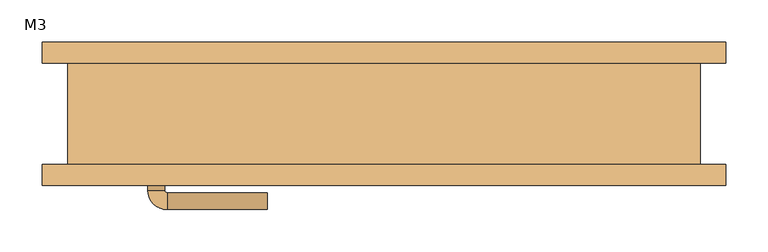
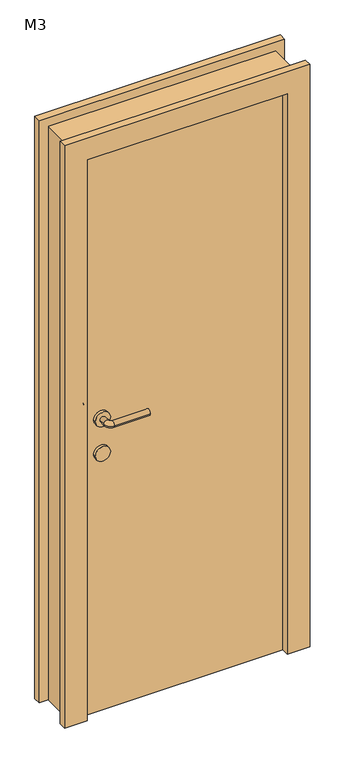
"""IFC4 building model written with IfcOpenShell, lengths in millimetres: door geometry, 单嵌板木门 1 : M3."""

import ifcopenshell
import ifcopenshell.guid

model = None  # the IFC model being written
_history = None  # IfcOwnerHistory: only IFC2X3 demands one
_inside = {}  # id of a spatial element -> (the spatial element, [elements in it])
_under = {}  # id of a project, library or spatial element -> (it, [spatial elements below it])
_declared = {}  # id of a project -> (the project, [libraries it declares])
_typed = {}  # id of a type object -> (the type object, [elements of that type])
_made_of = {}  # id of a material, layer set ... -> (it, [elements and type objects made of it])


def new_model(schema):
    """Start an empty IFC model of exactly this schema.

    Asked for "IFC4X3", IfcOpenShell would pick the latest addendum, in which some entities
    have other attributes; the version numbers below select the first issue.
    IFC2X3 requires an IfcOwnerHistory on every rooted entity: one is made here for all.
    """
    global model, _history
    if schema == "IFC4X3":
        model = ifcopenshell.file(schema_version=(4, 3, 0, 0))
    else:
        model = ifcopenshell.file(schema=schema)
    _inside.clear()
    _under.clear()
    _declared.clear()
    _typed.clear()
    _made_of.clear()
    _history = None
    if model.schema == "IFC2X3":
        org = make("IfcOrganization", Name="unknown")
        user = make(
            "IfcPersonAndOrganization",
            ThePerson=make("IfcPerson", FamilyName="unknown"),
            TheOrganization=org,
        )
        app = make(
            "IfcApplication",
            ApplicationDeveloper=org,
            Version="unknown",
            ApplicationFullName="unknown",
            ApplicationIdentifier="unknown",
        )
        _history = make(
            "IfcOwnerHistory",
            OwningUser=user,
            OwningApplication=app,
            ChangeAction="ADDED",
            CreationDate=0,
        )
    return model


def make(cls, **values):
    """One entity of the class cls with the attributes given. An attribute that is None is left unset."""
    return model.create_entity(
        cls, **{name: value for name, value in values.items() if value is not None}
    )


def rooted(cls, **values):
    """An entity with a GlobalId (a new one), such as an element, a storey or a relation."""
    return make(cls, GlobalId=ifcopenshell.guid.new(), OwnerHistory=_history, **values)


def si_unit(unit_type, name, prefix=None):
    """IfcSIUnit, for example si_unit("LENGTHUNIT", "METRE", prefix="MILLI")."""
    return make("IfcSIUnit", UnitType=unit_type, Prefix=prefix, Name=name)


def assignment(units):
    """IfcUnitAssignment: the units of a project."""
    return None if units is None else make("IfcUnitAssignment", Units=units)


def point(xyz):
    """IfcCartesianPoint."""
    return None if xyz is None else make("IfcCartesianPoint", Coordinates=xyz)


def direction(xyz):
    """IfcDirection."""
    return None if xyz is None else make("IfcDirection", DirectionRatios=xyz)


def frame(location, z_axis=None, x_axis=None):
    """IfcAxis2Placement3D, a coordinate frame: its origin and axes. An axis left out is left unset."""
    return make(
        "IfcAxis2Placement3D",
        Location=point(location),
        Axis=direction(z_axis),
        RefDirection=direction(x_axis),
    )


def frame_2d(location, x_axis=None):
    """IfcAxis2Placement2D, a coordinate frame in the plane: its origin and x axis."""
    return make(
        "IfcAxis2Placement2D", Location=point(location), RefDirection=direction(x_axis)
    )


def origin():
    """The frame at (0, 0, 0) with its axes left unset."""
    return frame((0.0, 0.0, 0.0))


def origin_with_axes():
    """The frame at (0, 0, 0) with the z axis (0, 0, 1) and the x axis (1, 0, 0) written out."""
    return frame((0.0, 0.0, 0.0), z_axis=(0.0, 0.0, 1.0), x_axis=(1.0, 0.0, 0.0))


def place(relative_to, where):
    """IfcLocalPlacement: puts the frame where relative to a parent placement (None: the world)."""
    return make(
        "IfcLocalPlacement", PlacementRelTo=relative_to, RelativePlacement=where
    )


def context(
    kind, dimensions, precision=None, world=None, true_north=None, identifier=None
):
    """IfcGeometricRepresentationContext, for example the 3D "Model" context."""
    return make(
        "IfcGeometricRepresentationContext",
        ContextIdentifier=identifier,
        ContextType=kind,
        CoordinateSpaceDimension=dimensions,
        Precision=precision,
        WorldCoordinateSystem=world,
        TrueNorth=true_north,
    )


def project(units=None, contexts=None):
    """IfcProject with its units and contexts."""
    return rooted(
        "IfcProject",
        Name="project",
        RepresentationContexts=contexts,
        UnitsInContext=assignment(units),
    )


def spatial(cls, under=None, at=None, **own):
    """A site, building, storey or space (cls), placed at a placement, below another one or the project."""
    s = rooted(cls, ObjectPlacement=at, **own)
    if under is not None:
        _under.setdefault(under.id(), (under, []))[1].append(s)
    return s


def polyline(points):
    """IfcPolyline through the points."""
    return make("IfcPolyline", Points=[point(p) for p in points])


def circle_curve(where, radius):
    """IfcCircle in the frame where."""
    return make("IfcCircle", Position=where, Radius=radius)


def ellipse_curve(where, semi_axis1, semi_axis2):
    """IfcEllipse in the frame where."""
    return make(
        "IfcEllipse", Position=where, SemiAxis1=semi_axis1, SemiAxis2=semi_axis2
    )


def trimmed(basis, trim1, trim2, sense, master):
    """IfcTrimmedCurve: the piece of a basis curve between two trims."""
    return make(
        "IfcTrimmedCurve",
        BasisCurve=basis,
        Trim1=trim1,
        Trim2=trim2,
        SenseAgreement=sense,
        MasterRepresentation=master,
    )


def segment(curve, same_sense, transition):
    """IfcCompositeCurveSegment."""
    return make(
        "IfcCompositeCurveSegment",
        Transition=transition,
        SameSense=same_sense,
        ParentCurve=curve,
    )


def composite_curve(segments, self_intersect=None):
    """IfcCompositeCurve: segments joined end to end."""
    return make("IfcCompositeCurve", Segments=segments, SelfIntersect=self_intersect)


def outline(outer, holes=None, kind="AREA"):
    """IfcArbitraryClosedProfileDef: a profile drawn as a closed curve; with holes, ...WithVoids."""
    if holes is None:
        return make("IfcArbitraryClosedProfileDef", ProfileType=kind, OuterCurve=outer)
    return make(
        "IfcArbitraryProfileDefWithVoids",
        ProfileType=kind,
        OuterCurve=outer,
        InnerCurves=holes,
    )


def extrude(swept, where, along, depth):
    """IfcExtrudedAreaSolid: the profile swept, set in the frame where, extruded along a direction by depth."""
    return make(
        "IfcExtrudedAreaSolid",
        SweptArea=swept,
        Position=where,
        ExtrudedDirection=direction(along),
        Depth=depth,
    )


def shape(context_of_items, identifier, shape_type, items):
    """IfcShapeRepresentation: the items that make up one representation, for example the "Body"."""
    return make(
        "IfcShapeRepresentation",
        ContextOfItems=context_of_items,
        RepresentationIdentifier=identifier,
        RepresentationType=shape_type,
        Items=items,
    )


def source(mapping_origin, context_of_items, identifier, shape_type, items):
    """IfcRepresentationMap: a shape defined once, which mapped items show again and again."""
    return make(
        "IfcRepresentationMap",
        MappingOrigin=mapping_origin,
        MappedRepresentation=shape(context_of_items, identifier, shape_type, items),
    )


def transform(
    local_origin,
    x_axis=None,
    y_axis=None,
    z_axis=None,
    scale=None,
    scale2=None,
    scale3=None,
    uniform=True,
):
    """IfcCartesianTransformationOperator3D, or its non-uniform kind. x_axis, y_axis, z_axis: its Axis1, 2, 3."""
    if uniform:
        return make(
            "IfcCartesianTransformationOperator3D",
            Axis1=direction(x_axis),
            Axis2=direction(y_axis),
            LocalOrigin=point(local_origin),
            Scale=scale,
            Axis3=direction(z_axis),
        )
    return make(
        "IfcCartesianTransformationOperator3DnonUniform",
        Axis1=direction(x_axis),
        Axis2=direction(y_axis),
        LocalOrigin=point(local_origin),
        Scale=scale,
        Axis3=direction(z_axis),
        Scale2=scale2,
        Scale3=scale3,
    )


def mapped(mapping_source, mapping_target):
    """IfcMappedItem: shows the shape of a source again, moved by a transform."""
    return make(
        "IfcMappedItem", MappingSource=mapping_source, MappingTarget=mapping_target
    )


def made_of(thing, what):
    """Note that an element or type object is made of a material, layer set ...; save() writes the relation."""
    if what is not None:
        _made_of.setdefault(what.id(), (what, []))[1].append(thing)
    return thing


def element(
    cls,
    number,
    at=None,
    inside=None,
    cuts=None,
    type_object=None,
    material=None,
    context=None,
    identifier="Body",
    shape_type=None,
    held_by="IfcProductDefinitionShape",
    body=None,
    shapes=None,
    **own,
):
    """One element of the class cls, such as IfcWall. Its Tag is "e" and its number.

    at: its placement. inside: the storey or other place that contains it. cuts: it is an
    opening in that element (IfcRelVoidsElement). A single representation is given by context,
    identifier, shape_type and body (its items); several are given by shapes. held_by: the class
    of the entity that holds the representations. save() writes the other relations.
    """
    e = rooted(cls, Tag="e%d" % number, ObjectPlacement=at, **own)
    if body is not None:
        shapes = [shape(context, identifier, shape_type, body)]
    if shapes is not None:
        e.Representation = make(held_by, Representations=shapes)
    if inside is not None:
        _inside.setdefault(inside.id(), (inside, []))[1].append(e)
    if cuts is not None:
        rooted(
            "IfcRelVoidsElement", RelatingBuildingElement=cuts, RelatedOpeningElement=e
        )
    if type_object is not None:
        _typed.setdefault(type_object.id(), (type_object, []))[1].append(e)
    return made_of(e, material)


def aggregate(whole, parts):
    """IfcRelAggregates: a whole, such as a stair, and the parts it consists of."""
    return rooted("IfcRelAggregates", RelatingObject=whole, RelatedObjects=parts)


def save(model, path):
    """Write the relations noted so far, then the file.

    IfcRelAggregates (storeys below a building ...), IfcRelContainedInSpatialStructure (elements
    in a storey), IfcRelDefinesByType, IfcRelAssociatesMaterial and IfcRelDeclares: one each for
    every whole, place, type object, material and project.
    """
    for whole, parts in _under.values():
        aggregate(whole, parts)
    for where, things in _inside.values():
        rooted(
            "IfcRelContainedInSpatialStructure",
            RelatedElements=things,
            RelatingStructure=where,
        )
    for kind, things in _typed.values():
        rooted("IfcRelDefinesByType", RelatedObjects=things, RelatingType=kind)
    for what, things in _made_of.values():
        rooted("IfcRelAssociatesMaterial", RelatedObjects=things, RelatingMaterial=what)
    for by, libraries in _declared.values():
        rooted("IfcRelDeclares", RelatingContext=by, RelatedDefinitions=libraries)
    model.write(path)


def plane_surface(at):
    """IfcPlane: the flat surface through the origin of the frame at, square to its z axis."""
    return make("IfcPlane", Position=at)


def cylinder_surface(at, radius):
    """IfcCylindricalSurface: all points at the distance radius from the z axis of the frame at."""
    return make("IfcCylindricalSurface", Position=at, Radius=radius)


def revolved_surface(curve, axis_point, axis_direction):
    """IfcSurfaceOfRevolution: the curve turned about the line through axis_point along axis_direction."""
    return make(
        "IfcSurfaceOfRevolution",
        SweptCurve=make("IfcArbitraryOpenProfileDef", ProfileType="CURVE", Curve=curve),
        AxisPosition=make("IfcAxis1Placement", Location=point(axis_point), Axis=direction(axis_direction)),
    )


def advanced_brep(points, edges, surfaces, faces):
    """IfcAdvancedBrep: a solid bounded by faces that lie on surfaces and meet in shared edges.

    An edge is (start, end): straight between two places in points (the first is 0);
    or (start, end, curve); or (start, end, curve, False) where it runs against its curve.
    A face is (place in surfaces, loops), or (place, loops, False) where it looks against
    its surface's normal. A loop lists edges by number (the first is 1), with a minus sign
    where the edge is run from its end to its start. The first loop is the outer one.
    """
    corners = [point(p) for p in points]
    vertices = [make("IfcVertexPoint", VertexGeometry=c) for c in corners]
    made = []
    for start, end, *more in edges:
        made.append(
            make(
                "IfcEdgeCurve",
                EdgeStart=vertices[start],
                EdgeEnd=vertices[end],
                EdgeGeometry=more[0] if more else make("IfcPolyline", Points=[corners[start], corners[end]]),
                SameSense=more[1] if len(more) > 1 else True,
            )
        )
    hull = []
    for where, loops, *sense in faces:
        bounds = []
        for j, loop in enumerate(loops):
            ring = [make("IfcOrientedEdge", EdgeElement=made[abs(k) - 1], Orientation=k > 0) for k in loop]
            bounds.append(
                make(
                    "IfcFaceOuterBound" if j == 0 else "IfcFaceBound",
                    Bound=make("IfcEdgeLoop", EdgeList=ring),
                    Orientation=True,
                )
            )
        hull.append(make("IfcAdvancedFace", Bounds=bounds, FaceSurface=surfaces[where], SameSense=sense[0] if sense else True))
    return make("IfcAdvancedBrep", Outer=make("IfcClosedShell", CfsFaces=hull))


def m3_ef5b271f(model_context):
    return source(origin(), model_context, "Body", "SolidModel", [
        extrude(outline(composite_curve([segment(trimmed(circle_curve(frame_2d((900.0, -270.0)), 25.0), [point((900.0, -245.0))], [point((900.0, -295.0))], False, "CARTESIAN"), True, "CONTINUOUS"), segment(trimmed(circle_curve(frame_2d((900.0, -270.0)), 25.0), [point((900.0, -295.0))], [point((900.0, -245.0))], False, "CARTESIAN"), True, "CONTINUOUS")], self_intersect=False)), frame((0.0, -10.0, 0.0), z_axis=(0.0, 1.0, 0.0), x_axis=(0.0, 0.0, 1.0)), (0.0, 0.0, 1.0), 10.0),
        extrude(outline(composite_curve([segment(trimmed(circle_curve(frame_2d((900.0, -270.0)), 25.0), [point((900.0, -245.0))], [point((900.0, -295.0))], False, "CARTESIAN"), True, "CONTINUOUS"), segment(trimmed(circle_curve(frame_2d((900.0, -270.0)), 25.0), [point((900.0, -295.0))], [point((900.0, -245.0))], False, "CARTESIAN"), True, "CONTINUOUS")], self_intersect=False)), frame((0.0, -70.0, 0.0), z_axis=(0.0, 1.0, 0.0), x_axis=(0.0, 0.0, 1.0)), (0.0, 0.0, 1.0), 10.0),
        advanced_brep(
        [(-280.0, 0.0, 1020.0), (-260.0, 0.0, 1020.0), (-280.0, 20.613355, 1020.0), (-260.0, 20.613355, 1020.0), (-138.419036, 43.580964, 1020.0), (-138.419036, 23.580964, 1020.0), (-257.0323911, 23.580964, 1020.0), (-257.0323911, 43.580964, 1020.0)],
        [
            (0, 1, circle_curve(frame((-270.0, 0.0, 1020.0), z_axis=(0.0, -1.0, 0.0), x_axis=(1.0, 0.0, 0.0)), 10.0)),
            (1, 0, circle_curve(frame((-270.0, 0.0, 1020.0), z_axis=(0.0, -1.0, 0.0), x_axis=(1.0, 0.0, 0.0)), 10.0)),
            (0, 2),
            (2, 3, circle_curve(frame((-270.0, 20.613355, 1020.0), z_axis=(0.0, -1.0, 0.0), x_axis=(1.0, 0.0, 0.0)), 10.0)),
            (3, 1),
            (3, 2, circle_curve(frame((-270.0, 20.613355, 1020.0), z_axis=(0.0, -1.0, 0.0), x_axis=(1.0, 0.0, 0.0)), 10.0)),
            (4, 5, circle_curve(frame((-138.419036, 33.580964, 1020.0), z_axis=(1.0, 0.0, 0.0), x_axis=(0.0, -1.0, 0.0)), 10.0)),
            (5, 4, circle_curve(frame((-138.419036, 33.580964, 1020.0), z_axis=(1.0, 0.0, 0.0), x_axis=(0.0, -1.0, 0.0)), 10.0)),
            (6, 7, circle_curve(frame((-257.0323911, 33.580964, 1020.0), z_axis=(-1.0, 0.0, 0.0), x_axis=(0.0, -1.0, 0.0)), 10.0)),
            (7, 2, circle_curve(frame((-257.0323911, 20.613355, 1020.0), z_axis=(0.0, 0.0, 1.0), x_axis=(-1.0, 0.0, 0.0)), 22.9676089)),
            (3, 6, circle_curve(frame((-257.0323911, 20.613355, 1020.0), z_axis=(0.0, 0.0, -1.0), x_axis=(-1.0, 0.0, 0.0)), 2.9676089)),
            (7, 6, circle_curve(frame((-257.0323911, 33.580964, 1020.0), z_axis=(-1.0, 0.0, 0.0), x_axis=(0.0, -1.0, 0.0)), 10.0)),
            (6, 5),
            (4, 7),
        ],
        [
            plane_surface(frame((-270.0, 0.0, 900.0), z_axis=(0.0, -1.0, 0.0), x_axis=(0.0, 0.0, 1.0))),
            cylinder_surface(frame((-270.0, 0.0, 1020.0), z_axis=(0.0, -1.0, 0.0), x_axis=(1.0, 0.0, 0.0)), 10.0),
            plane_surface(frame((-138.419036, 33.580964, 900.0), z_axis=(1.0, 0.0, 0.0), x_axis=(0.0, 0.0, 1.0))),
            revolved_surface(trimmed(ellipse_curve(frame((-270.0, 20.613355, 1020.0), z_axis=(0.0, 1.0, 0.0), x_axis=(1.0, 0.0, 0.0)), 10.0, 10.0), [point((-280.0, 20.613355, 1020.0))], [point((-260.0, 20.613355, 1020.0))], True, "CARTESIAN"), (-257.0323911, 20.613355, 900.0), (0.0, 0.0, 1.0)),
            revolved_surface(trimmed(ellipse_curve(frame((-270.0, 20.613355, 1020.0), z_axis=(0.0, 1.0, 0.0), x_axis=(1.0, 0.0, 0.0)), 10.0, 10.0), [point((-260.0, 20.613355, 1020.0))], [point((-280.0, 20.613355, 1020.0))], True, "CARTESIAN"), (-257.0323911, 20.613355, 900.0), (0.0, 0.0, 1.0)),
            cylinder_surface(frame((-257.0323911, 33.580964, 1020.0), z_axis=(-1.0, 0.0, 0.0), x_axis=(0.0, -1.0, 0.0)), 10.0),
        ],
        [
            (0, [[1, 2]]),
            (1, [[3, 4, 5, -1]]),
            (1, [[-5, 6, -3, -2]]),
            (2, [[7, 8]]),
            (3, [[9, 10, -6, 11]]),
            (4, [[12, -11, -4, -10]]),
            (5, [[13, -7, 14, -9]]),
            (5, [[-14, -8, -13, -12]]),
        ],
    ),
        extrude(outline(composite_curve([segment(trimmed(circle_curve(frame_2d((1020.0, -270.0)), 25.0), [point((1020.0, -245.0))], [point((1020.0, -295.0))], False, "CARTESIAN"), True, "CONTINUOUS"), segment(trimmed(circle_curve(frame_2d((1020.0, -270.0)), 25.0), [point((1020.0, -295.0))], [point((1020.0, -245.0))], False, "CARTESIAN"), True, "CONTINUOUS")], self_intersect=False)), frame((0.0, -10.0, 0.0), z_axis=(0.0, 1.0, 0.0), x_axis=(0.0, 0.0, 1.0)), (0.0, 0.0, 1.0), 10.0),
        advanced_brep(
        [(-260.0, -70.0, 1020.0), (-280.0, -70.0, 1020.0), (-280.0, -90.6133551, 1020.0), (-260.0, -90.6133551, 1020.0), (-138.419036, -93.580964, 1020.0), (-138.419036, -113.580964, 1020.0), (-257.0323911, -113.580964, 1020.0), (-257.0323911, -93.580964, 1020.0)],
        [
            (0, 1, circle_curve(frame((-270.0, -70.0, 1020.0), z_axis=(0.0, 1.0, 0.0), x_axis=(-1.0, 0.0, 0.0)), 10.0)),
            (1, 0, circle_curve(frame((-270.0, -70.0, 1020.0), z_axis=(0.0, 1.0, 0.0), x_axis=(-1.0, 0.0, 0.0)), 10.0)),
            (1, 2),
            (2, 3, circle_curve(frame((-270.0, -90.6133551, 1020.0), z_axis=(0.0, 1.0, 0.0), x_axis=(-1.0, 0.0, 0.0)), 10.0)),
            (3, 0),
            (3, 2, circle_curve(frame((-270.0, -90.6133551, 1020.0), z_axis=(0.0, 1.0, 0.0), x_axis=(-1.0, 0.0, 0.0)), 10.0)),
            (4, 5, circle_curve(frame((-138.419036, -103.580964, 1020.0), z_axis=(1.0, 0.0, 0.0), x_axis=(0.0, -1.0, 0.0)), 10.0)),
            (5, 4, circle_curve(frame((-138.419036, -103.580964, 1020.0), z_axis=(1.0, 0.0, 0.0), x_axis=(0.0, -1.0, 0.0)), 10.0)),
            (6, 7, circle_curve(frame((-257.0323911, -103.580964, 1020.0), z_axis=(-1.0, 0.0, 0.0), x_axis=(0.0, -1.0, 0.0)), 10.0)),
            (7, 3, circle_curve(frame((-257.0323911, -90.6133551, 1020.0), z_axis=(0.0, 0.0, -1.0), x_axis=(-1.0, 0.0, 0.0)), 2.9676089)),
            (2, 6, circle_curve(frame((-257.0323911, -90.6133551, 1020.0), z_axis=(0.0, 0.0, 1.0), x_axis=(-1.0, 0.0, 0.0)), 22.9676089)),
            (7, 6, circle_curve(frame((-257.0323911, -103.580964, 1020.0), z_axis=(-1.0, 0.0, 0.0), x_axis=(0.0, -1.0, 0.0)), 10.0)),
            (6, 5),
            (4, 7),
        ],
        [
            plane_surface(frame((-270.0, -70.0, 900.0), z_axis=(0.0, 1.0, 0.0), x_axis=(0.0, 0.0, 1.0))),
            cylinder_surface(frame((-270.0, -70.0, 1020.0), z_axis=(0.0, 1.0, 0.0), x_axis=(-1.0, 0.0, 0.0)), 10.0),
            plane_surface(frame((-138.419036, -103.580964, 900.0), z_axis=(1.0, 0.0, 0.0), x_axis=(0.0, 0.0, 1.0))),
            revolved_surface(trimmed(ellipse_curve(frame((-270.0, -90.6133551, 1020.0), z_axis=(0.0, -1.0, 0.0), x_axis=(-1.0, 0.0, 0.0)), 10.0, 10.0), [point((-260.0, -90.6133551, 1020.0))], [point((-280.0, -90.6133551, 1020.0))], True, "CARTESIAN"), (-257.0323911, -90.6133551, 900.0), (0.0, 0.0, -1.0)),
            revolved_surface(trimmed(ellipse_curve(frame((-270.0, -90.6133551, 1020.0), z_axis=(0.0, -1.0, 0.0), x_axis=(-1.0, 0.0, 0.0)), 10.0, 10.0), [point((-280.0, -90.6133551, 1020.0))], [point((-260.0, -90.6133551, 1020.0))], True, "CARTESIAN"), (-257.0323911, -90.6133551, 900.0), (0.0, 0.0, -1.0)),
            cylinder_surface(frame((-257.0323911, -103.580964, 1020.0), z_axis=(-1.0, 0.0, 0.0), x_axis=(0.0, -1.0, 0.0)), 10.0),
        ],
        [
            (0, [[1, 2]]),
            (1, [[3, 4, 5, -2]]),
            (1, [[-5, 6, -3, -1]]),
            (2, [[7, 8]]),
            (3, [[9, 10, -4, 11]]),
            (4, [[12, -11, -6, -10]]),
            (5, [[13, -7, 14, -9]]),
            (5, [[-14, -8, -13, -12]]),
        ],
    ),
        extrude(outline(composite_curve([segment(trimmed(circle_curve(frame_2d((1020.0, -270.0)), 25.0), [point((1020.0, -245.0))], [point((1020.0, -295.0))], False, "CARTESIAN"), True, "CONTINUOUS"), segment(trimmed(circle_curve(frame_2d((1020.0, -270.0)), 25.0), [point((1020.0, -295.0))], [point((1020.0, -245.0))], False, "CARTESIAN"), True, "CONTINUOUS")], self_intersect=False)), frame((0.0, -70.0, 0.0), z_axis=(0.0, 1.0, 0.0), x_axis=(0.0, 0.0, 1.0)), (0.0, 0.0, 1.0), 10.0),
        extrude(outline(polyline([(0.0, 405.0), (2030.0, 405.0), (2030.0, -405.0), (0.0, -405.0), (0.0, -330.0), (1955.0, -330.0), (1955.0, 330.0), (0.0, 330.0), (0.0, 405.0)])), frame((0.0, -85.0, 0.0), z_axis=(0.0, 1.0, 0.0), x_axis=(0.0, 0.0, 1.0)), (0.0, 0.0, 1.0), 25.0),
        extrude(outline(polyline([(2030.0, 405.0), (2030.0, -405.0), (0.0, -405.0), (0.0, -330.0), (1955.0, -330.0), (1955.0, 330.0), (0.0, 330.0), (0.0, 405.0), (2030.0, 405.0)])), frame((0.0, 60.0, 0.0), z_axis=(0.0, 1.0, 0.0), x_axis=(0.0, 0.0, 1.0)), (0.0, 0.0, 1.0), 25.0),
        extrude(outline(polyline([(330.0, -10.0), (330.0, -60.0), (-330.0, -60.0), (-330.0, -10.0), (330.0, -10.0)])), origin_with_axes(), (0.0, 0.0, 1.0), 1955.0),
        extrude(outline(polyline([(2000.0, -375.0), (0.0, -375.0), (0.0, -330.0), (1955.0, -330.0), (1955.0, 330.0), (0.0, 330.0), (0.0, 375.0), (2000.0, 375.0), (2000.0, -375.0)])), frame((0.0, -60.0, 0.0), z_axis=(0.0, 1.0, 0.0), x_axis=(0.0, 0.0, 1.0)), (0.0, 0.0, 1.0), 120.0),
    ])


if __name__ == "__main__":
    model = new_model("IFC4")
    model_context = context("Model", 3, world=origin())
    ifc_project = project(units=[si_unit("LENGTHUNIT", "METRE", prefix="MILLI")], contexts=[model_context])
    site = spatial("IfcSite", under=ifc_project)
    building = spatial("IfcBuilding", under=site)
    placement = place(None, origin())
    m3_shape = m3_ef5b271f(model_context)
    element("IfcDoor", 1, ObjectType="单嵌板木门 1 : M3", at=placement, inside=building, context=model_context, shape_type="MappedRepresentation", body=[
        mapped(m3_shape, transform((0.0, 0.0, 0.0), x_axis=(1.0, 0.0, 0.0), y_axis=(0.0, 1.0, 0.0), z_axis=(0.0, 0.0, 1.0))),
    ])
    save(model, "model.ifc")
